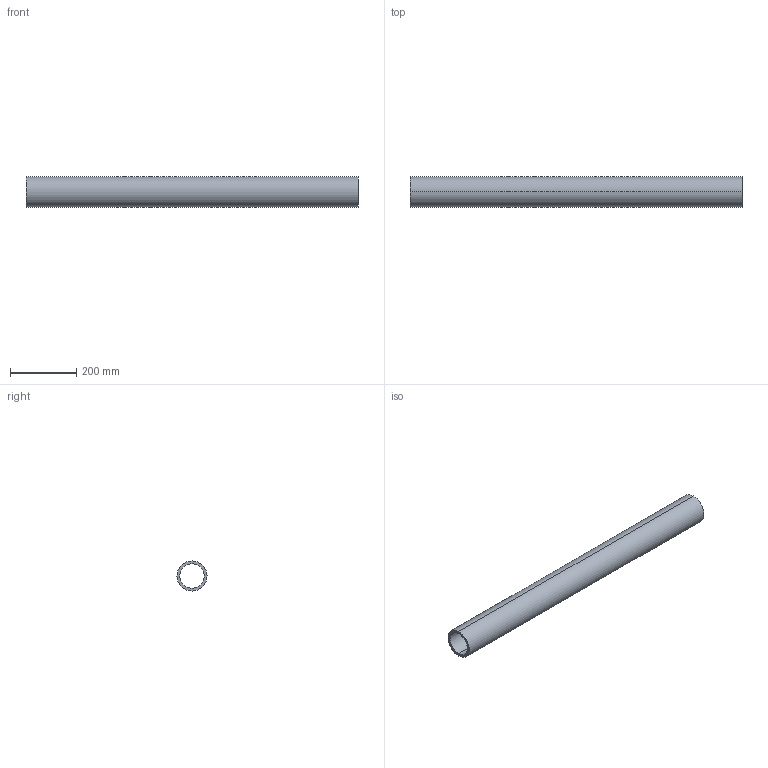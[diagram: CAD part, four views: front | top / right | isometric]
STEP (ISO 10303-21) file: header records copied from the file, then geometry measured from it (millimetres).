
FILE_DESCRIPTION (( 'STEP AP203' ), '1' );
FILE_NAME ('KP_90EC6.step', '2011-08-08T11:50:53', ( '' ), ( '' ), 'SwSTEP 2.0', 'SolidWorks 2011', '' );
FILE_SCHEMA (( 'CONFIG_CONTROL_DESIGN' ));
Length unit declared in the file: millimetre
Products named in the file (1): KP_90EC6
Bounding box: 1000 x 90.4 x 90.4 mm (x, y, z)
Volume: 2215794.8 mm3; surface area: 518239.1 mm2
Topology: 1 solids, 1 shells, 6 faces, 12 edges, 8 vertices
Faces by surface type: cylinder 4, plane 2
Entity records: 245 total; most frequent: DIRECTION 34, CARTESIAN_POINT 27, ORIENTED_EDGE 24, AXIS2_PLACEMENT_3D 15, EDGE_CURVE 12, PERSON_AND_ORGANIZATION 8, CIRCLE 8, VERTEX_POINT 8
